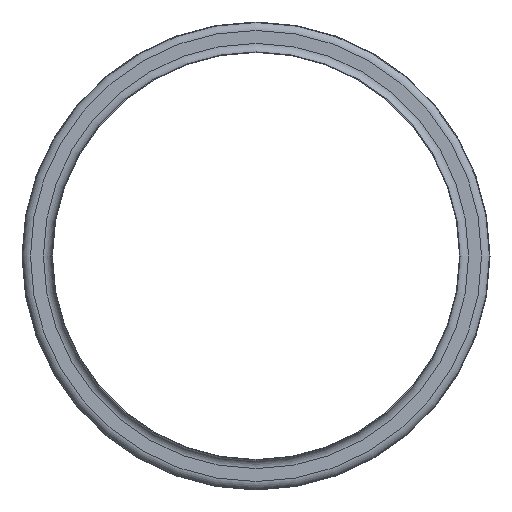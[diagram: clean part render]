
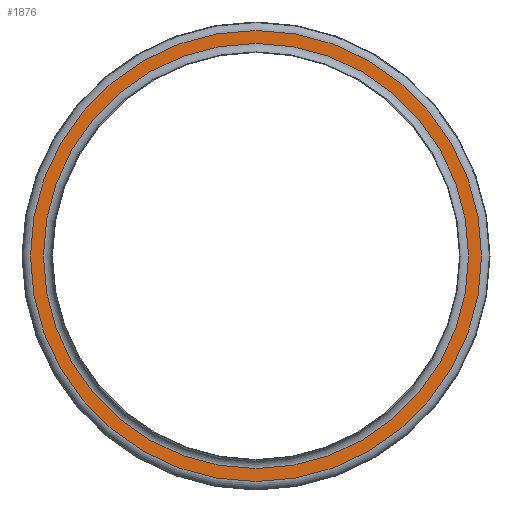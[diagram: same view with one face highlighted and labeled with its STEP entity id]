
A CAD part, front view. The second image highlights one B-rep face of the part: STEP entity #1876.
In plain terms, the highlighted planar face has unit normal (0, -1, 0).
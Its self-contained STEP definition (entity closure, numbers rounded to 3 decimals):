
#1876 = ADVANCED_FACE( '', ( #4389, #4390 ), #4391, .T. );
#4389 = FACE_OUTER_BOUND( '', #6972, .T. );
#4390 = FACE_BOUND( '', #6973, .T. );
#4391 = PLANE( '', #6974 );
#6972 = EDGE_LOOP( '', ( #10757 ) );
#6973 = EDGE_LOOP( '', ( #10758 ) );
#6974 = AXIS2_PLACEMENT_3D( '', #10759, #10760, #10761 );
#10757 = ORIENTED_EDGE( '', *, *, #11959, .T. );
#10758 = ORIENTED_EDGE( '', *, *, #12059, .F. );
#10759 = CARTESIAN_POINT( '', ( 0., 3.125, 78.125 ) );
#10760 = DIRECTION( '', ( 0., -1., 0. ) );
#10761 = DIRECTION( '', ( 0., 0., -1. ) );
#11959 = EDGE_CURVE( '', #13808, #13808, #13809, .T. );
#12059 = EDGE_CURVE( '', #13949, #13949, #13950, .T. );
#13808 = VERTEX_POINT( '', #15740 );
#13809 = CIRCLE( '', #15741, 82.875 );
#13949 = VERTEX_POINT( '', #15881 );
#13950 = CIRCLE( '', #15882, 78.125 );
#15740 = CARTESIAN_POINT( '', ( 0., 3.125, -82.875 ) );
#15741 = AXIS2_PLACEMENT_3D( '', #17831, #17832, #17833 );
#15881 = CARTESIAN_POINT( '', ( 0., 3.125, -78.125 ) );
#15882 = AXIS2_PLACEMENT_3D( '', #17954, #17955, #17956 );
#17831 = CARTESIAN_POINT( '', ( 0., 3.125, 0. ) );
#17832 = DIRECTION( '', ( 0., -1., 0. ) );
#17833 = DIRECTION( '', ( 0., 0., -1. ) );
#17954 = CARTESIAN_POINT( '', ( 0., 3.125, 0. ) );
#17955 = DIRECTION( '', ( 0., -1., 0. ) );
#17956 = DIRECTION( '', ( 0., 0., -1. ) );
